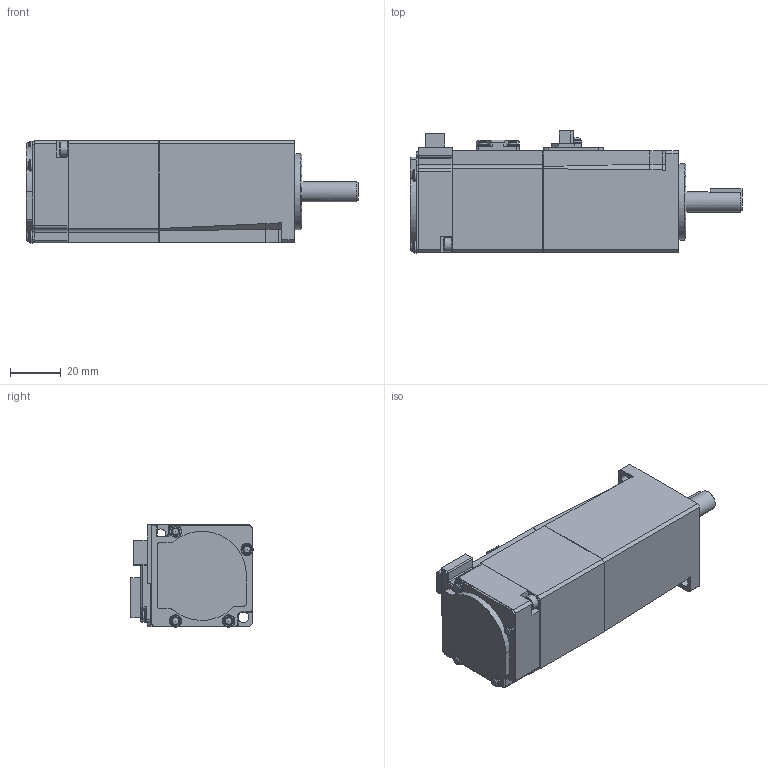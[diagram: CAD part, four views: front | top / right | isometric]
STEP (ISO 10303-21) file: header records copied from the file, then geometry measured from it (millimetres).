
FILE_DESCRIPTION( ( 'STEP AP214' ), '1' );
FILE_NAME( 'e:/temp/worker_127/temp/exporttempdir_5984_131_IiZ6Z/format_0/MHMF012L1V1 20.stp', '2022-04-08T06:42:54', ( 'License CC BY-ND 4.0' ), ( 'CADENAS' ), ' ', 'PARTsolutions', ' ' );
FILE_SCHEMA( ( 'AUTOMOTIVE_DESIGN { 1 0 10303 214 1 1 1 1 }' ) );
Length unit declared in the file: millimetre
Products named in the file (2): MHMF012L1V1 20; _MHMF012L1U42con
Assembly tree (1 placements, depth 2):
  MHMF012L1V1 20
    _MHMF012L1U42con
Bounding box: 130.4 x 48.05 x 40.15 mm (x, y, z)
Volume: 166639.6 mm3; surface area: 23797.2 mm2
Topology: 1 solids, 1 shells, 519 faces, 1323 edges, 857 vertices
Faces by surface type: plane 367, cylinder 102, cone 31, torus 10, sphere 9
Full cylindrical faces by diameter (mm): 1.567 x8, 2.459 x1, 3.1 x1, 4.3 x7, 4.4 x9, 4.8 x4, 5.5 x2, 6 x2, 8 x1, 8.9 x1, 10.5 x1, 30 x1
Entity records: 18979 total; most frequent: CARTESIAN_POINT 2583, DIRECTION 2477, ORIENTED_EDGE 2392, EDGE_CURVE 1196, LINE 951, VECTOR 951, VERTEX_POINT 835, AXIS2_PLACEMENT_3D 763
